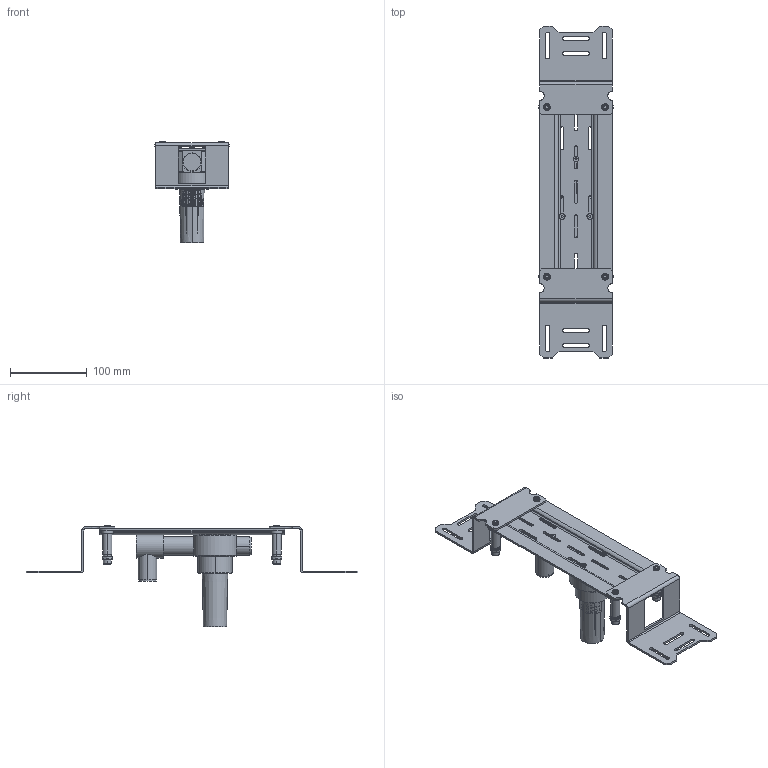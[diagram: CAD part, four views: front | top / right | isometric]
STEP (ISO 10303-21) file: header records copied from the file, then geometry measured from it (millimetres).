
FILE_DESCRIPTION((''),'2;1');
FILE_NAME('ASM0008_ASM','2021-01-13T',('扢數'),(''),'PRO/ENGINEER BY PARAMETRIC TECHNOLOGY CORPORATION, 2015240','PRO/ENGINEER BY PARAMETRIC TECHNOLOGY CORPORATION, 2015240','');
FILE_SCHEMA(('CONFIG_CONTROL_DESIGN'));
Products named in the file (23): PRT0036_AF6; PRT0035_AF6; PRT0037_AF0; PRT0037_AF2; PRT0039_AF6; PRT0041_AF6; PRT0042_AF6; PRT0046_AF6; PRT0047_AF6; 41X2_AF6; M4--_AF0; K; ASM0009_AF4_ASM; STCT0176-XX_39_AF0; STCT0175-XX_25_AF0; STCT0175-XX_25_AF1; STMB0313-XX_8; STST0094-XX_6; MSBY0030-XX_ASM_29_AF0_ASM; M4-_AF0; M4-; GAI-01; ASM0008_ASM
Assembly tree (31 placements, depth 3):
  ASM0008_ASM
    ASM0009_AF4_ASM
      PRT0036_AF6
      PRT0035_AF6
      PRT0037_AF0
      PRT0037_AF2
      PRT0039_AF6
      PRT0041_AF6
      PRT0042_AF6
      PRT0046_AF6
      PRT0047_AF6
      41X2_AF6
      M4--_AF0
      K  x3
    MSBY0030-XX_ASM_29_AF0_ASM
      STCT0176-XX_39_AF0
      STCT0175-XX_25_AF0
      STCT0175-XX_25_AF1
      STMB0313-XX_8  x4
      STST0094-XX_6  x4
    M4-_AF0
    M4-  x2
    GAI-01
Bounding box: 97 x 433 x 133 mm (x, y, z)
Volume: 309358.7 mm3; surface area: 209467.2 mm2
Topology: 29 solids, 32 shells, 1389 faces, 3777 edges, 2521 vertices
Faces by surface type: cylinder 641, plane 389, cone 186, bspline 110, torus 63
Entity records: 70662 total; most frequent: CARTESIAN_POINT 42605, ORIENTED_EDGE 6066, DIRECTION 5358, EDGE_CURVE 3039, AXIS2_PLACEMENT_3D 2045, VERTEX_POINT 2013, VECTOR 1268, LINE 1268
